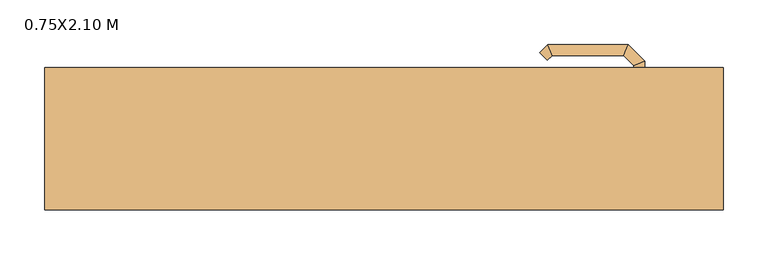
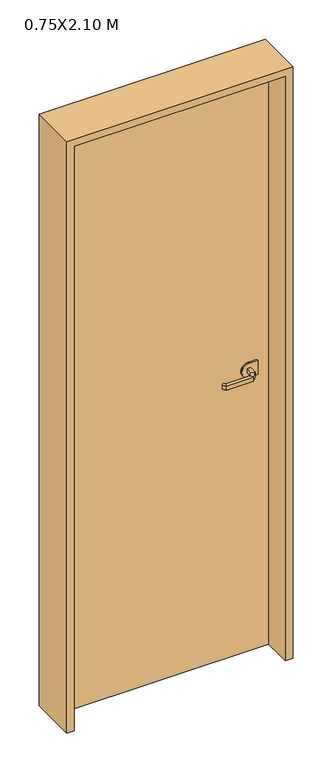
"""IFC4 building model written with IfcOpenShell, lengths in millimetres: door geometry, PUERTA DE  MADERA-CEDRO : 0.75X2.10 M."""

from ifc_helpers import new_model, si_unit, point, frame, frame_2d, origin, origin_with_axes, place, context, project, spatial, polyline, circle_curve, ellipse_curve, trimmed, segment, composite_curve, outline, extrude, faceted_brep, source, transform, mapped, element, save
from ifc_brep_helpers import plane_surface, cylinder_surface, advanced_brep


def door_0_75x2_10_m_d5b717f6(model_context):
    return source(origin(), model_context, "Body", "SolidModel", [
        extrude(outline(composite_curve([segment(polyline([(975.0, 315.9), (1025.0, 315.9), (1025.0, 285.9)]), True, "CONTINUOUS"), segment(trimmed(circle_curve(frame_2d((1000.0, 285.9)), 25.0), [point((1025.0, 285.9))], [point((975.0, 285.9))], False, "CARTESIAN"), True, "CONTINUOUS"), segment(polyline([(975.0, 285.9), (975.0, 315.9)]), True, "CONTINUOUS")], self_intersect=False)), frame((0.0, 11.5, 0.0), z_axis=(0.0, 1.0, 0.0), x_axis=(0.0, 0.0, 1.0)), (0.0, 0.0, 1.0), 5.0),
        advanced_brep(
        [(279.9, 11.5, 993.0), (279.9, 11.5, 1007.0), (291.9, 11.5, 1007.0), (291.9, 11.5, 993.0), (279.9, -10.9852045, 993.0), (279.9, -10.9852045, 1007.0), (291.9, -15.9557673, 1007.0), (291.9, -15.9557673, 993.0), (268.4147186, -22.4704859, 993.0), (268.4147186, -22.4704859, 1007.0), (273.3852814, -34.4704859, 1007.0), (273.3852814, -34.4704859, 993.0), (188.3394977, -22.4704859, 993.0), (188.3394977, -22.4704859, 1007.0), (183.368935, -34.4704859, 1007.0), (183.368935, -34.4704859, 993.0), (183.0257892, -17.1567774, 993.0), (174.5405078, -25.6420588, 993.0), (174.5405078, -25.6420588, 1007.0), (183.0257892, -17.1567774, 1007.0)],
        [
            (0, 1),
            (1, 2, circle_curve(frame((285.9, 11.5, 986.9542278), z_axis=(0.0, 1.0, 0.0), x_axis=(1.0, 0.0, 0.0)), 20.9244589)),
            (2, 3),
            (3, 0, circle_curve(frame((285.9, 11.5, 1013.0457722), z_axis=(0.0, 1.0, 0.0), x_axis=(1.0, 0.0, 0.0)), 20.9244589)),
            (0, 4),
            (4, 5),
            (5, 1),
            (5, 6, ellipse_curve(frame((285.9, -13.4704859, 986.9542278), z_axis=(0.38268343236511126, 0.9238795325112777, 0.0), x_axis=(-0.9238795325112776, 0.3826834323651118, 0.0)), 22.6484711, 20.9244589)),
            (6, 2),
            (6, 7),
            (7, 3),
            (7, 4, ellipse_curve(frame((285.9, -13.4704859, 1013.0457722), z_axis=(0.38268343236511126, 0.9238795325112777, 0.0), x_axis=(-0.9238795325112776, 0.3826834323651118, 0.0)), 22.6484711, 20.9244589)),
            (4, 8),
            (8, 9),
            (9, 5),
            (9, 10, ellipse_curve(frame((270.9, -28.4704859, 986.9542278), z_axis=(0.9238795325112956, 0.3826834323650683, 0.0), x_axis=(-0.38268343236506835, 0.9238795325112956, 0.0)), 22.6484711, 20.9244589)),
            (10, 6),
            (10, 11),
            (11, 7),
            (11, 8, ellipse_curve(frame((270.9, -28.4704859, 1013.0457722), z_axis=(0.9238795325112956, 0.3826834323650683, 0.0), x_axis=(-0.38268343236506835, 0.9238795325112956, 0.0)), 22.6484711, 20.9244589)),
            (8, 12),
            (12, 13),
            (13, 9),
            (13, 14, ellipse_curve(frame((185.8542163, -28.4704859, 986.9542278), z_axis=(0.9238795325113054, -0.3826834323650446, 0.0), x_axis=(0.3826834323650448, 0.9238795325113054, 0.0)), 22.6484711, 20.9244589)),
            (14, 10),
            (14, 15),
            (15, 11),
            (15, 12, ellipse_curve(frame((185.8542163, -28.4704859, 1013.0457722), z_axis=(0.9238795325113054, -0.3826834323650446, 0.0), x_axis=(0.3826834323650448, 0.9238795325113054, 0.0)), 22.6484711, 20.9244589)),
            (16, 17, circle_curve(frame((178.7831485, -21.3994181, 1013.0457722), z_axis=(-0.707106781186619, 0.7071067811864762, 0.0), x_axis=(-0.7071067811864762, -0.707106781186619, 0.0)), 20.9244589)),
            (17, 18),
            (18, 19, circle_curve(frame((178.7831485, -21.3994181, 986.9542278), z_axis=(-0.707106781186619, 0.7071067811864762, 0.0), x_axis=(-0.7071067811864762, -0.707106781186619, 0.0)), 20.9244589)),
            (19, 16),
            (12, 16),
            (19, 13),
            (18, 14),
            (17, 15),
        ],
        [
            plane_surface(frame((295.1195445, 11.5, 1000.0), z_axis=(0.0, 1.0, 0.0), x_axis=(0.0, 0.0, 1.0))),
            plane_surface(frame((279.9, 11.5, 993.0), z_axis=(-1.0, 0.0, 0.0), x_axis=(0.0, -1.0, 0.0))),
            cylinder_surface(frame((285.9, 11.5, 986.9542278), z_axis=(0.0, 1.0, 0.0), x_axis=(1.0, 0.0, 0.0)), 20.9244589),
            plane_surface(frame((291.9, 11.5, 1007.0), z_axis=(1.0, 0.0, 0.0), x_axis=(0.0, -1.0, 0.0))),
            cylinder_surface(frame((285.9, 11.5, 1013.0457722), z_axis=(0.0, 1.0, 0.0), x_axis=(1.0, 0.0, 0.0)), 20.9244589),
            plane_surface(frame((279.9, -10.9852045, 993.0), z_axis=(-0.7071067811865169, 0.7071067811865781, 0.0), x_axis=(-0.7071067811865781, -0.7071067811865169, 0.0))),
            cylinder_surface(frame((285.9, -13.4704859, 986.9542278), z_axis=(0.7071067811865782, 0.7071067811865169, 0.0), x_axis=(0.7071067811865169, -0.7071067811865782, 0.0)), 20.9244589),
            plane_surface(frame((291.9, -15.9557673, 1007.0), z_axis=(0.7071067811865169, -0.7071067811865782, 0.0), x_axis=(-0.7071067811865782, -0.7071067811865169, 0.0))),
            cylinder_surface(frame((285.9, -13.4704859, 1013.0457722), z_axis=(0.7071067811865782, 0.7071067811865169, 0.0), x_axis=(0.7071067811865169, -0.7071067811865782, 0.0)), 20.9244589),
            plane_surface(frame((268.4147186, -22.4704859, 993.0), z_axis=(0.0, 1.0, 0.0), x_axis=(-1.0, 0.0, 0.0))),
            cylinder_surface(frame((270.9, -28.4704859, 986.9542278), z_axis=(1.0, 0.0, 0.0), x_axis=(0.0, -1.0, 0.0)), 20.9244589),
            plane_surface(frame((273.3852814, -34.4704859, 1007.0), z_axis=(0.0, -1.0, 0.0), x_axis=(-1.0, 0.0, 0.0))),
            cylinder_surface(frame((270.9, -28.4704859, 1013.0457722), z_axis=(1.0, 0.0, 0.0), x_axis=(0.0, -1.0, 0.0)), 20.9244589),
            plane_surface(frame((178.7831485, -21.3994181, 990.7804555), z_axis=(-0.707106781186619, 0.7071067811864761, 0.0), x_axis=(-0.7071067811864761, -0.707106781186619, 0.0))),
            plane_surface(frame((188.3394977, -22.4704859, 993.0), z_axis=(0.7071067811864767, 0.7071067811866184, 0.0), x_axis=(-0.7071067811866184, 0.7071067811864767, 0.0))),
            cylinder_surface(frame((185.8542163, -28.4704859, 986.9542278), z_axis=(0.707106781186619, -0.7071067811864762, 0.0), x_axis=(-0.7071067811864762, -0.707106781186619, 0.0)), 20.9244589),
            plane_surface(frame((183.368935, -34.4704859, 1007.0), z_axis=(-0.7071067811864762, -0.7071067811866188, 0.0), x_axis=(-0.7071067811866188, 0.7071067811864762, 0.0))),
            cylinder_surface(frame((185.8542163, -28.4704859, 1013.0457722), z_axis=(0.707106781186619, -0.7071067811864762, 0.0), x_axis=(-0.7071067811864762, -0.707106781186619, 0.0)), 20.9244589),
        ],
        [
            (0, [[1, 2, 3, 4]]),
            (1, [[-1, 5, 6, 7]]),
            (2, [[-2, -7, 8, 9]]),
            (3, [[-3, -9, 10, 11]]),
            (4, [[-4, -11, 12, -5]]),
            (5, [[-6, 13, 14, 15]]),
            (6, [[-8, -15, 16, 17]]),
            (7, [[-10, -17, 18, 19]]),
            (8, [[-12, -19, 20, -13]]),
            (9, [[-14, 21, 22, 23]]),
            (10, [[-16, -23, 24, 25]]),
            (11, [[-18, -25, 26, 27]]),
            (12, [[-20, -27, 28, -21]]),
            (13, [[29, 30, 31, 32]]),
            (14, [[-22, 33, -32, 34]]),
            (15, [[-24, -34, -31, 35]]),
            (16, [[-26, -35, -30, 36]]),
            (17, [[-28, -36, -29, -33]]),
        ],
    ),
        advanced_brep(
        [(291.9, 59.6, 1007.0), (279.9, 59.6, 1007.0), (279.9, 59.6, 993.0), (291.9, 59.6, 993.0), (291.9, 87.2509507, 1007.0), (279.9, 82.280388, 1007.0), (279.9, 82.280388, 993.0), (291.9, 87.2509507, 993.0), (273.52279, 105.6281607, 1007.0), (268.5522273, 93.6281607, 1007.0), (268.5522273, 93.6281607, 993.0), (273.52279, 105.6281607, 993.0), (183.396078, 105.6281607, 1007.0), (188.3666408, 93.6281607, 1007.0), (188.3666408, 93.6281607, 993.0), (183.396078, 105.6281607, 993.0), (174.5676509, 96.7997336, 1007.0), (174.5676509, 96.7997336, 993.0), (183.0529323, 88.3144522, 993.0), (183.0529323, 88.3144522, 1007.0)],
        [
            (0, 1, circle_curve(frame((285.9, 59.6, 986.9542278), z_axis=(0.0, -1.0, 0.0), x_axis=(-1.0, 0.0, 0.0)), 20.9244589)),
            (1, 2),
            (2, 3, circle_curve(frame((285.9, 59.6, 1013.0457722), z_axis=(0.0, -1.0, 0.0), x_axis=(-1.0, 0.0, 0.0)), 20.9244589)),
            (3, 0),
            (0, 4),
            (4, 5, ellipse_curve(frame((285.9, 84.7656693, 986.9542278), z_axis=(0.3826834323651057, -0.9238795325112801, 0.0), x_axis=(-0.9238795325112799, -0.38268343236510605, 0.0)), 22.6484711, 20.9244589)),
            (5, 1),
            (5, 6),
            (6, 2),
            (6, 7, ellipse_curve(frame((285.9, 84.7656693, 1013.0457722), z_axis=(0.3826834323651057, -0.9238795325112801, 0.0), x_axis=(-0.9238795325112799, -0.38268343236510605, 0.0)), 22.6484711, 20.9244589)),
            (7, 3),
            (7, 4),
            (4, 8),
            (8, 9, ellipse_curve(frame((271.0375086, 99.6281607, 986.9542278), z_axis=(0.9238795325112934, -0.3826834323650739, 0.0), x_axis=(-0.3826834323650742, -0.9238795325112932, 0.0)), 22.6484711, 20.9244589)),
            (9, 5),
            (9, 10),
            (10, 6),
            (10, 11, ellipse_curve(frame((271.0375086, 99.6281607, 1013.0457722), z_axis=(0.9238795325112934, -0.3826834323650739, 0.0), x_axis=(-0.3826834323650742, -0.9238795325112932, 0.0)), 22.6484711, 20.9244589)),
            (11, 7),
            (11, 8),
            (8, 12),
            (12, 13, ellipse_curve(frame((185.8813594, 99.6281607, 986.9542278), z_axis=(0.9238795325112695, 0.3826834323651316, 0.0), x_axis=(0.38268343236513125, -0.9238795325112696, 0.0)), 22.6484711, 20.9244589)),
            (13, 9),
            (13, 14),
            (14, 10),
            (14, 15, ellipse_curve(frame((185.8813594, 99.6281607, 1013.0457722), z_axis=(0.9238795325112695, 0.3826834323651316, 0.0), x_axis=(0.38268343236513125, -0.9238795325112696, 0.0)), 22.6484711, 20.9244589)),
            (15, 11),
            (15, 12),
            (16, 17),
            (17, 18, circle_curve(frame((178.8102916, 92.5570929, 1013.0457722), z_axis=(-0.7071067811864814, -0.7071067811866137, 0.0), x_axis=(0.7071067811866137, -0.7071067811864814, 0.0)), 20.9244589)),
            (18, 19),
            (19, 16, circle_curve(frame((178.8102916, 92.5570929, 986.9542278), z_axis=(-0.7071067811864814, -0.7071067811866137, 0.0), x_axis=(0.7071067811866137, -0.7071067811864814, 0.0)), 20.9244589)),
            (12, 16),
            (19, 13),
            (18, 14),
            (17, 15),
        ],
        [
            plane_surface(frame((295.1195445, 59.6, 1000.0), z_axis=(0.0, -1.0, 0.0), x_axis=(0.0, 0.0, -1.0))),
            cylinder_surface(frame((285.9, 59.6, 986.9542278), z_axis=(0.0, -1.0, 0.0), x_axis=(-1.0, 0.0, 0.0)), 20.9244589),
            plane_surface(frame((279.9, 59.6, 1007.0), z_axis=(-1.0, 0.0, 0.0), x_axis=(0.0, 1.0, 0.0))),
            cylinder_surface(frame((285.9, 59.6, 1013.0457722), z_axis=(0.0, -1.0, 0.0), x_axis=(-1.0, 0.0, 0.0)), 20.9244589),
            plane_surface(frame((291.9, 59.6, 993.0), z_axis=(1.0, 0.0, 0.0), x_axis=(0.0, 1.0, 0.0))),
            cylinder_surface(frame((285.9, 84.7656693, 986.9542278), z_axis=(0.7071067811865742, -0.7071067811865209, 0.0), x_axis=(-0.7071067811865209, -0.7071067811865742, 0.0)), 20.9244589),
            plane_surface(frame((279.9, 82.280388, 1007.0), z_axis=(-0.7071067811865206, -0.7071067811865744, 0.0), x_axis=(-0.7071067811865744, 0.7071067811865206, 0.0))),
            cylinder_surface(frame((285.9, 84.7656693, 1013.0457722), z_axis=(0.7071067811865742, -0.7071067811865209, 0.0), x_axis=(-0.7071067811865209, -0.7071067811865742, 0.0)), 20.9244589),
            plane_surface(frame((291.9, 87.2509507, 993.0), z_axis=(0.707106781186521, 0.7071067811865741, 0.0), x_axis=(-0.7071067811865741, 0.707106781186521, 0.0))),
            cylinder_surface(frame((271.0375086, 99.6281607, 986.9542278), z_axis=(1.0, 0.0, 0.0), x_axis=(0.0, -1.0, 0.0)), 20.9244589),
            plane_surface(frame((268.5522273, 93.6281607, 1007.0), z_axis=(0.0, -1.0, 0.0), x_axis=(-1.0, 0.0, 0.0))),
            cylinder_surface(frame((271.0375086, 99.6281607, 1013.0457722), z_axis=(1.0, 0.0, 0.0), x_axis=(0.0, -1.0, 0.0)), 20.9244589),
            plane_surface(frame((273.52279, 105.6281607, 993.0), z_axis=(0.0, 1.0, 0.0), x_axis=(-1.0, 0.0, 0.0))),
            plane_surface(frame((178.8102916, 92.5570929, 1009.2195445), z_axis=(-0.7071067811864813, -0.7071067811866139, 0.0), x_axis=(-0.7071067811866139, 0.7071067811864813, 0.0))),
            cylinder_surface(frame((185.8813594, 99.6281607, 986.9542278), z_axis=(0.7071067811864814, 0.7071067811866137, 0.0), x_axis=(0.7071067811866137, -0.7071067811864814, 0.0)), 20.9244589),
            plane_surface(frame((188.3666408, 93.6281607, 1007.0), z_axis=(0.7071067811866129, -0.7071067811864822, 0.0), x_axis=(-0.7071067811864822, -0.7071067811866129, 0.0))),
            cylinder_surface(frame((185.8813594, 99.6281607, 1013.0457722), z_axis=(0.7071067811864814, 0.7071067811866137, 0.0), x_axis=(0.7071067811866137, -0.7071067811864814, 0.0)), 20.9244589),
            plane_surface(frame((183.396078, 105.6281607, 993.0), z_axis=(-0.7071067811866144, 0.7071067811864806, 0.0), x_axis=(-0.7071067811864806, -0.7071067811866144, 0.0))),
        ],
        [
            (0, [[1, 2, 3, 4]]),
            (1, [[-1, 5, 6, 7]]),
            (2, [[-2, -7, 8, 9]]),
            (3, [[-3, -9, 10, 11]]),
            (4, [[-4, -11, 12, -5]]),
            (5, [[-6, 13, 14, 15]]),
            (6, [[-8, -15, 16, 17]]),
            (7, [[-10, -17, 18, 19]]),
            (8, [[-12, -19, 20, -13]]),
            (9, [[-14, 21, 22, 23]]),
            (10, [[-16, -23, 24, 25]]),
            (11, [[-18, -25, 26, 27]]),
            (12, [[-20, -27, 28, -21]]),
            (13, [[29, 30, 31, 32]]),
            (14, [[-22, 33, -32, 34]]),
            (15, [[-24, -34, -31, 35]]),
            (16, [[-26, -35, -30, 36]]),
            (17, [[-28, -36, -29, -33]]),
        ],
    ),
        extrude(outline(composite_curve([segment(polyline([(975.0, 315.9), (1025.0, 315.9), (1025.0, 285.9)]), True, "CONTINUOUS"), segment(trimmed(circle_curve(frame_2d((1000.0, 285.9)), 25.0), [point((1025.0, 285.9))], [point((975.0, 285.9))], False, "CARTESIAN"), True, "CONTINUOUS"), segment(polyline([(975.0, 285.9), (975.0, 315.9)]), True, "CONTINUOUS")], self_intersect=False)), frame((0.0, 54.6, 0.0), z_axis=(0.0, 1.0, 0.0), x_axis=(0.0, 0.0, 1.0)), (0.0, 0.0, 1.0), 5.0),
        faceted_brep([(-380.0, -80.0, 0.0), (-380.0, 80.0, 0.0), (-341.9, 80.0, 0.0), (-341.9, 54.6, 0.0), (-354.6, 54.6, 0.0), (-354.6, -80.0, 0.0), (-380.0, -80.0, 2100.0), (-380.0, 80.0, 2100.0), (380.0, 80.0, 2100.0), (380.0, 80.0, 0.0), (341.9, 80.0, 0.0), (341.9, 80.0, 2061.9), (-341.9, 80.0, 2061.9), (-341.9, 54.6, 2061.9), (341.9, 54.6, 2061.9), (341.9, 54.6, 0.0), (354.6, 54.6, 0.0), (354.6, 54.6, 2074.6), (-354.6, 54.6, 2074.6), (-354.6, -80.0, 2074.6), (354.6, -80.0, 2074.6), (354.6, -80.0, 0.0), (380.0, -80.0, 0.0), (380.0, -80.0, 2100.0)], [[[0, 1, 2, 3, 4, 5]], [[1, 0, 6, 7]], [[2, 1, 7, 8, 9, 10, 11, 12]], [[3, 2, 12, 13]], [[4, 3, 13, 14, 15, 16, 17, 18]], [[5, 4, 18, 19]], [[0, 5, 19, 20, 21, 22, 23, 6]], [[8, 23, 22, 9]], [[22, 21, 16, 15, 10, 9]], [[14, 11, 10, 15]], [[20, 17, 16, 21]], [[7, 6, 23, 8]], [[13, 12, 11, 14]], [[19, 18, 17, 20]]]),
        extrude(outline(polyline([(-354.6, 54.6), (354.6, 54.6), (354.6, 16.5), (-354.6, 16.5), (-354.6, 54.6)])), origin_with_axes(), (0.0, 0.0, 1.0), 2074.6),
    ])


if __name__ == "__main__":
    model = new_model("IFC4")
    model_context = context("Model", 3, world=origin())
    ifc_project = project(units=[si_unit("LENGTHUNIT", "METRE", prefix="MILLI")], contexts=[model_context])
    site = spatial("IfcSite", under=ifc_project)
    building = spatial("IfcBuilding", under=site)
    placement = place(None, origin())
    door_0_75x2_10_m_shape = door_0_75x2_10_m_d5b717f6(model_context)
    element("IfcDoor", 1, ObjectType="PUERTA DE  MADERA-CEDRO : 0.75X2.10 M", at=placement, inside=building, context=model_context, shape_type="MappedRepresentation", body=[
        mapped(door_0_75x2_10_m_shape, transform((0.0, 0.0, 0.0), x_axis=(1.0, 0.0, 0.0), y_axis=(0.0, 1.0, 0.0), z_axis=(0.0, 0.0, 1.0))),
    ])
    save(model, "model.ifc")
